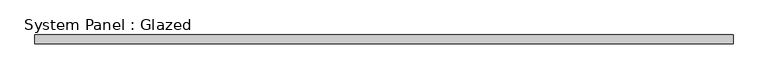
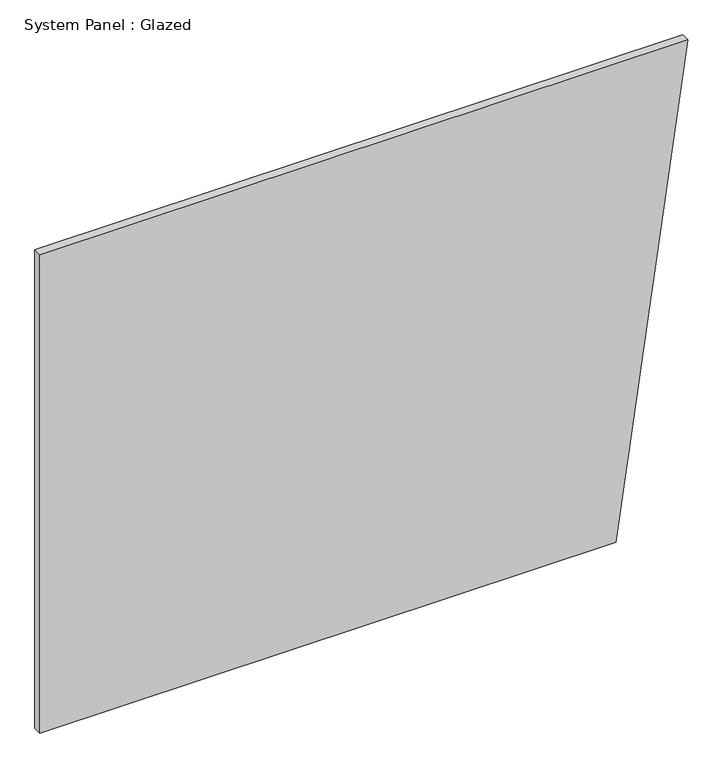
"""IFC4 building model written with IfcOpenShell, lengths in millimetres: plate geometry, System Panel : Glazed."""

from ifc_helpers import new_model, si_unit, frame, origin, place, context, project, spatial, polyline, outline, extrude, source, transform, mapped, element, save


def system_panel_glazed_ee053642(model_context):
    return source(origin(), model_context, "Body", "SweptSolid", [
        extrude(outline(polyline([(0.0, -976.7040979), (0.0, 759.6587428), (1524.0, 976.7040979), (1524.0, -976.7040979), (0.0, -976.7040979)])), frame((0.0, 19.05, 0.0), z_axis=(0.0, 1.0, 0.0), x_axis=(0.0, 0.0, 1.0)), (0.0, 0.0, 1.0), 25.4),
    ])


if __name__ == "__main__":
    model = new_model("IFC4")
    model_context = context("Model", 3, world=origin())
    ifc_project = project(units=[si_unit("LENGTHUNIT", "METRE", prefix="MILLI")], contexts=[model_context])
    site = spatial("IfcSite", under=ifc_project)
    building = spatial("IfcBuilding", under=site)
    placement = place(None, origin())
    system_panel_glazed_shape = system_panel_glazed_ee053642(model_context)
    element("IfcPlate", 1, ObjectType="System Panel : Glazed", at=placement, inside=building, context=model_context, shape_type="MappedRepresentation", body=[
        mapped(system_panel_glazed_shape, transform((0.0, 0.0, 0.0), x_axis=(1.0, 0.0, 0.0), y_axis=(0.0, 1.0, 0.0), z_axis=(0.0, 0.0, 1.0))),
    ])
    save(model, "model.ifc")
